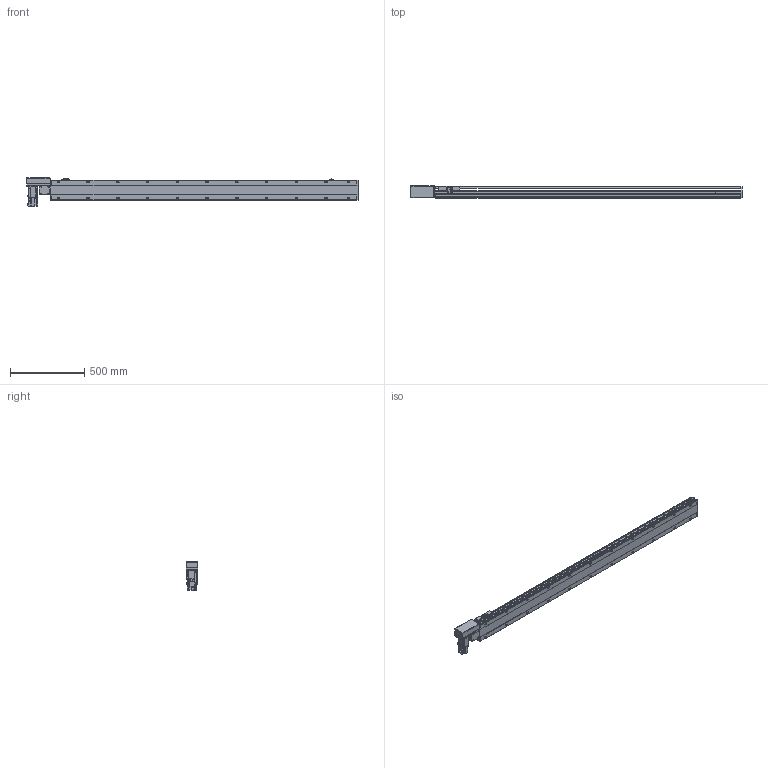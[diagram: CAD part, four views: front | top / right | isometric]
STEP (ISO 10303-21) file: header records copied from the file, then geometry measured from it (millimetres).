
FILE_DESCRIPTION( ( 'STEP AP214' ), '1' );
FILE_NAME( 'x:/temp/worker_27/temp/exporttempdir_6708_378_OtzNy/format_0/PBS140-P40-S1800-R-T40-C1-N(0).stp', '2022-06-06T01:29:03', ( 'License CC BY-ND 4.0' ), ( 'CADENAS' ), ' ', 'PARTsolutions', ' ' );
FILE_SCHEMA( ( 'AUTOMOTIVE_DESIGN { 1 0 10303 214 1 1 1 1 }' ) );
Length unit declared in the file: millimetre
Products named in the file (7): PBS140-P40-S1800-R-T40-C1-N(0); _PBS140-S1800()_body; _PBS140T-R_motors; _T40-p1; _PBS140_sliser; _PBS140_plant; _PBS140_sensor
Assembly tree (8 placements, depth 2):
  PBS140-P40-S1800-R-T40-C1-N(0)
    _PBS140-S1800()_body
    _PBS140T-R_motors
    _T40-p1
    _PBS140_sliser
    _PBS140_plant
    _PBS140_sensor  x3
Bounding box: 2233 x 80.5 x 189.7 mm (x, y, z)
Volume: 9866719.5 mm3; surface area: 1694371.2 mm2
Topology: 8 solids, 8 shells, 1123 faces, 2956 edges, 1931 vertices
Faces by surface type: plane 710, cylinder 355, cone 48, sphere 8, torus 2
Full cylindrical faces by diameter (mm): 3.242 x4, 4 x2, 4.134 x4, 4.4 x8, 4.5 x2, 4.8 x4, 4.917 x30, 5.5 x7, 6 x2, 7 x24, 7.5 x8, 8 x12, 8.5 x4, 10.5 x22, 14 x1, 30 x2, 50 x2
Entity records: 41215 total; most frequent: CARTESIAN_POINT 6755, DIRECTION 5407, ORIENTED_EDGE 5092, EDGE_CURVE 2546, AXIS2_PLACEMENT_3D 1897, VERTEX_POINT 1773, LINE 1613, VECTOR 1613
